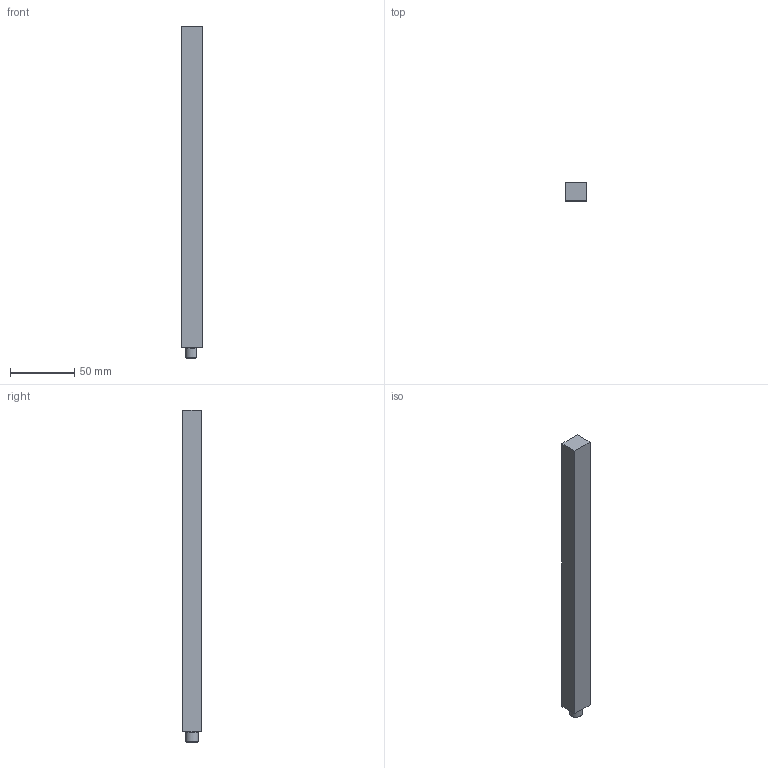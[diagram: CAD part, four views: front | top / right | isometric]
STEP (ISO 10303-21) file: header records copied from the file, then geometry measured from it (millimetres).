
FILE_DESCRIPTION (( 'STEP AP214' ), '1' );
FILE_NAME ('KKPHF Pin S_-_10-250.step', '2024-02-07T08:53:59', ( '' ), ( '' ), 'SwSTEP 2.0', 'SolidWorks 2020', '' );
FILE_SCHEMA (( 'AUTOMOTIVE_DESIGN' ));
Length unit declared in the file: millimetre
Products named in the file (1): KKPHF  Pin S_-_10-250
Bounding box: 17 x 14 x 257.9 mm (x, y, z)
Volume: 59881.9 mm3; surface area: 16369.2 mm2
Topology: 1 solids, 1 shells, 15 faces, 31 edges, 19 vertices
Faces by surface type: plane 9, cylinder 3, cone 2, torus 1
Full cylindrical faces by diameter (mm): 4.2 x1
Entity records: 425 total; most frequent: CARTESIAN_POINT 78, DIRECTION 62, ORIENTED_EDGE 56, EDGE_CURVE 28, AXIS2_PLACEMENT_3D 22, VERTEX_POINT 18, VECTOR 18, LINE 18
